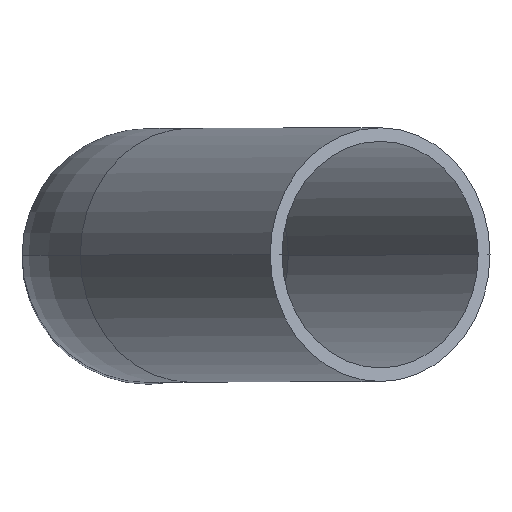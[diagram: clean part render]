
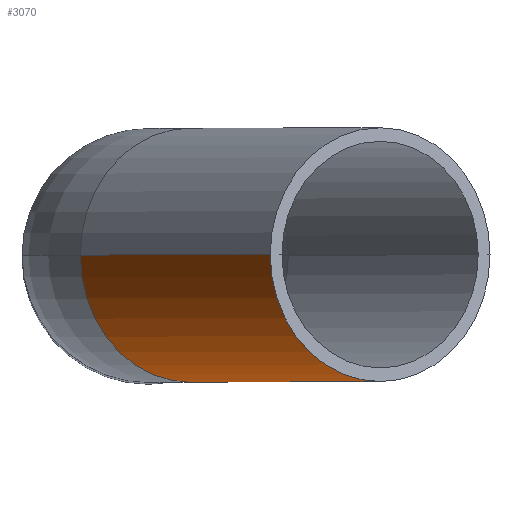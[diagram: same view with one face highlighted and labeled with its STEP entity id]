
A CAD part, top view. The second image highlights one B-rep face of the part: STEP entity #3070.
In plain terms, the highlighted cylindrical face has radius 14 mm (diameter 28 mm), a partial arc.
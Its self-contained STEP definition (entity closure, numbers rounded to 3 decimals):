
#1410=CARTESIAN_POINT('',(67.397,48.566,130.89));
#1420=VERTEX_POINT('',#1410);
#1510=CARTESIAN_POINT('',(43.148,48.566,144.89));
#1520=VERTEX_POINT('',#1510);
#1550=CARTESIAN_POINT('',(55.272,48.566,137.89));
#1560=DIRECTION('',(0.5,0.,0.866));
#1570=DIRECTION('',(0.866,0.,-0.5));
#1580=AXIS2_PLACEMENT_3D('',#1550,#1560,#1570);
#1590=CIRCLE('',#1580,14.);
#1600=EDGE_CURVE('',#1520,#1420,#1590,.T.);
#2400=CARTESIAN_POINT('',(76.217,48.566,174.167));
#2410=DIRECTION('',(0.5,0.,0.866));
#2420=DIRECTION('',(0.866,0.,-0.5));
#2430=AXIS2_PLACEMENT_3D('',#2400,#2410,#2420);
#2440=CIRCLE('',#2430,14.);
#2450=CARTESIAN_POINT('',(88.342,48.566,167.167));
#2460=VERTEX_POINT('',#2450);
#2470=CARTESIAN_POINT('',(64.093,48.566,181.167));
#2480=VERTEX_POINT('',#2470);
#2510=EDGE_CURVE('',#2480,#2460,#2440,.T.);
#2860=CARTESIAN_POINT('',(55.272,48.566,137.89));
#2870=DIRECTION('',(0.5,0.,0.866));
#2880=DIRECTION('',(0.866,0.,-0.5));
#2890=AXIS2_PLACEMENT_3D('',#2860,#2870,#2880);
#2900=CYLINDRICAL_SURFACE('',#2890,14.);
#2910=CARTESIAN_POINT('',(67.397,48.566,130.89));
#2920=DIRECTION('',(0.5,0.,0.866));
#2930=VECTOR('',#2920,1.);
#2940=LINE('',#2910,#2930);
#2950=EDGE_CURVE('',#1420,#2460,#2940,.T.);
#2960=ORIENTED_EDGE('',*,*,#2950,.T.);
#2970=ORIENTED_EDGE('',*,*,#1600,.T.);
#2980=CARTESIAN_POINT('',(43.148,48.566,144.89));
#2990=DIRECTION('',(0.5,0.,0.866));
#3000=VECTOR('',#2990,1.);
#3010=LINE('',#2980,#3000);
#3020=EDGE_CURVE('',#1520,#2480,#3010,.T.);
#3030=ORIENTED_EDGE('',*,*,#3020,.F.);
#3040=ORIENTED_EDGE('',*,*,#2510,.F.);
#3050=EDGE_LOOP('',(#3040,#3030,#2970,#2960));
#3060=FACE_OUTER_BOUND('',#3050,.T.);
#3070=ADVANCED_FACE('',(#3060),#2900,.T.);
